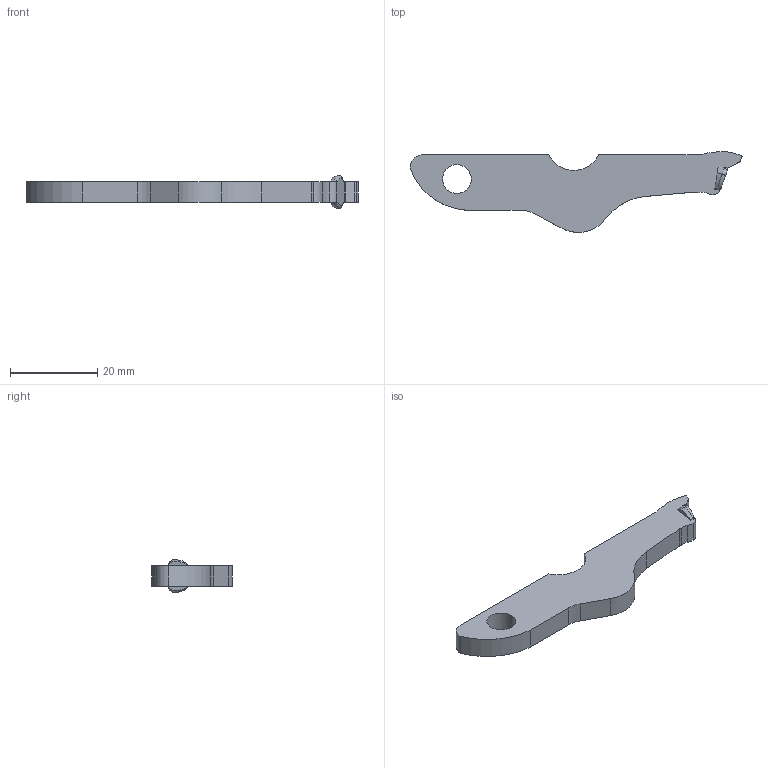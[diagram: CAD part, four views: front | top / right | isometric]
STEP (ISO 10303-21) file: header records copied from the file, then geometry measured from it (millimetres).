
FILE_DESCRIPTION(('CATIA V5 STEP','CAx-IF Rec.Pracs.--- Composite Materials ---3.4---2017-06-13'),'2;1');
FILE_NAME('J:\Public\HandTools\PRC\Vended\Principal - Locking pliers project\Engineering\LP7-23 EDM\Rev 4\LP7WC-23_PROTOTYPE.stp','2025-09-22T18:44:18+00:00',('none'),('none'),'CATIA Version 5-6 Release 2020 SP2','CATIA V5 STEP AP203 v2','none');
FILE_SCHEMA(('CONFIG_CONTROL_DESIGN'));
Length unit declared in the file: inch
Products named in the file (1): LP7WC-23
Bounding box: 75.97 x 18.5 x 7.55 mm (x, y, z)
Volume: 3838 mm3; surface area: 2546.3 mm2
Topology: 1 solids, 1 shells, 120 faces, 324 edges, 212 vertices
Faces by surface type: plane 66, cylinder 36, bspline 18
Entity records: 4691 total; most frequent: CARTESIAN_POINT 1843, ORIENTED_EDGE 644, DIRECTION 450, EDGE_CURVE 322, VERTEX_POINT 212, VECTOR 202, LINE 202, AXIS2_PLACEMENT_3D 161
